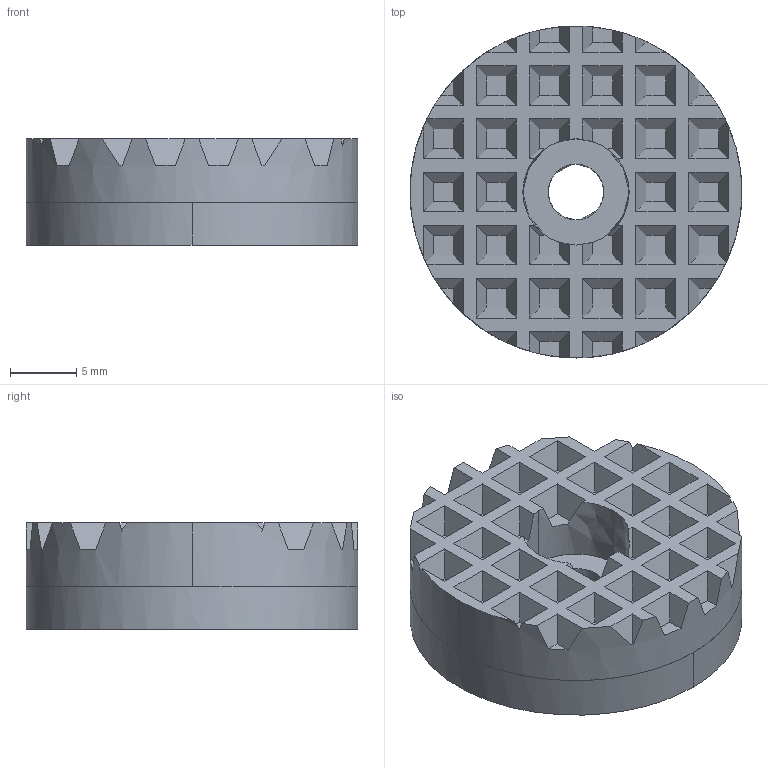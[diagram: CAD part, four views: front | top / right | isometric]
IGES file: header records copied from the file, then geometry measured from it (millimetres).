
Start section:  PTC IGES file: 370071_cp-015.igs
Global section: file name: 370071_cp-015.igs; native system: Pro/ENGINEER by Parametric Technology Corporation; preprocessor: 2004090; author: KAIHATSU01; organization: Unknown; date: 061017.092946; units: millimetre
Bounding box: 25 x 25 x 8 mm (x, y, z)
Volume: 3361.7 mm3; surface area: 2018.8 mm2
Topology: 1 solids, 1 shells, 172 faces, 456 edges, 304 vertices
Faces by surface type: bspline 172
